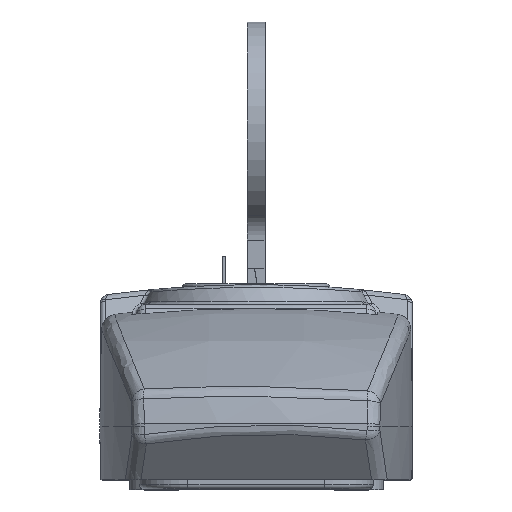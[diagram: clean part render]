
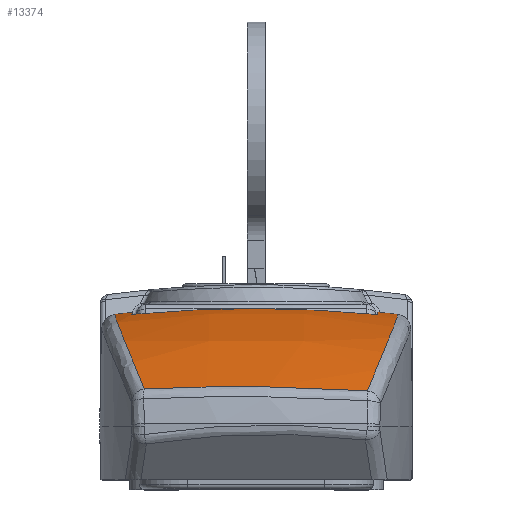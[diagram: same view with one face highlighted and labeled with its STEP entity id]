
A CAD part, top view. The second image highlights one B-rep face of the part: STEP entity #13374.
In plain terms, the highlighted free-form (B-spline) face has degree [3, 3] with [4, 4] control points.
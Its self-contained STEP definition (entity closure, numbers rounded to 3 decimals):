
#11570=CARTESIAN_POINT('',(-6.751,30.507,
-11.442));
#11583=CARTESIAN_POINT('',(-7.095,28.45,
-11.682));
#11584=CARTESIAN_POINT('',(-7.042,28.793,
-11.645));
#11585=CARTESIAN_POINT('',(-6.932,29.48,
-11.568));
#11586=CARTESIAN_POINT('',(-6.813,30.165,
-11.485));
#11587=CARTESIAN_POINT('',(-6.751,30.507,
-11.442));
#11608=CARTESIAN_POINT('',(-6.751,1.493,
-11.442));
#11618=CARTESIAN_POINT('',(-6.751,1.493,
-11.442));
#11619=CARTESIAN_POINT('',(-6.804,1.785,
-11.478));
#11620=CARTESIAN_POINT('',(-6.906,2.37,
-11.55));
#11621=CARTESIAN_POINT('',(-7.002,2.956,
-11.617));
#11622=CARTESIAN_POINT('',(-7.048,3.25,
-11.649));
#11823=CARTESIAN_POINT('',(-42.421,27.41,
-3.635));
#11824=CARTESIAN_POINT('',(-42.554,25.885,
-3.731));
#11825=CARTESIAN_POINT('',(-42.757,22.832,
-3.888));
#11826=CARTESIAN_POINT('',(-42.871,18.243,
-4.025));
#11827=CARTESIAN_POINT('',(-42.792,13.655,
-4.063));
#11828=CARTESIAN_POINT('',(-42.521,9.074,
-4.003));
#11829=CARTESIAN_POINT('',(-42.213,6.031,
-3.897));
#11830=CARTESIAN_POINT('',(-42.027,4.513,
-3.827));
#11832=CARTESIAN_POINT('',(-10.54,1.493,
-11.438));
#11833=CARTESIAN_POINT('',(-12.345,1.492,
-11.39));
#11834=CARTESIAN_POINT('',(-15.954,1.55,
-11.169));
#11835=CARTESIAN_POINT('',(-21.34,1.813,
-10.461));
#11836=CARTESIAN_POINT('',(-26.666,2.248,
-9.378));
#11837=CARTESIAN_POINT('',(-31.916,2.848,
-7.918));
#11838=CARTESIAN_POINT('',(-37.054,3.601,
-6.087));
#11839=CARTESIAN_POINT('',(-40.388,4.195,
-4.621));
#11840=CARTESIAN_POINT('',(-42.027,4.513,
-3.827));
#11842=CARTESIAN_POINT('',(-8.579,1.493,
62.41));
#11843=DIRECTION('',(0.,1.,0.));
#11844=DIRECTION('',(0.025,0.,-1.));
#11845=AXIS2_PLACEMENT_3D('',#11842,#11843,#11844);
#11847=CARTESIAN_POINT('',(-8.579,3.25,
62.41));
#11848=DIRECTION('',(0.,1.,0.));
#11849=DIRECTION('',(0.021,0.,-1.));
#11850=AXIS2_PLACEMENT_3D('',#11847,#11848,#11849);
#11852=CARTESIAN_POINT('',(-15.27,16.,-12.044));
#11853=CARTESIAN_POINT('',(-15.237,14.576,
-12.047));
#11854=CARTESIAN_POINT('',(-15.111,11.73,
-12.008));
#11855=CARTESIAN_POINT('',(-14.74,7.469,
-11.811));
#11856=CARTESIAN_POINT('',(-14.372,4.652,
-11.589));
#11857=CARTESIAN_POINT('',(-14.159,3.25,
-11.455));
#11859=CARTESIAN_POINT('',(-14.781,28.45,
-11.437));
#11860=CARTESIAN_POINT('',(-14.921,27.074,
-11.569));
#11861=CARTESIAN_POINT('',(-15.144,24.315,
-11.79));
#11862=CARTESIAN_POINT('',(-15.308,20.159,
-11.993));
#11863=CARTESIAN_POINT('',(-15.302,17.386,
-12.042));
#11864=CARTESIAN_POINT('',(-15.27,16.,-12.044));
#11866=CARTESIAN_POINT('',(-8.579,28.45,
62.41));
#11867=DIRECTION('',(0.,1.,0.));
#11868=DIRECTION('',(0.02,0.,-1.));
#11869=AXIS2_PLACEMENT_3D('',#11866,#11867,#11868);
#11871=CARTESIAN_POINT('',(-8.579,30.507,
62.41));
#11872=DIRECTION('',(0.,-1.,0.));
#11873=DIRECTION('',(-0.027,0.,-1.));
#11874=AXIS2_PLACEMENT_3D('',#11871,#11872,#11873);
#11876=CARTESIAN_POINT('',(-42.421,27.41,
-3.635));
#11877=CARTESIAN_POINT('',(-40.763,27.736,
-4.45));
#11878=CARTESIAN_POINT('',(-37.392,28.344,
-5.954));
#11879=CARTESIAN_POINT('',(-32.193,29.116,
-7.832));
#11880=CARTESIAN_POINT('',(-26.879,29.732,
-9.328));
#11881=CARTESIAN_POINT('',(-21.488,30.178,
-10.438));
#11882=CARTESIAN_POINT('',(-16.028,30.449,
-11.164));
#11883=CARTESIAN_POINT('',(-12.37,30.508,
-11.39));
#11884=CARTESIAN_POINT('',(-10.54,30.507,
-11.438));
#12479=CARTESIAN_POINT('',(-7.095,28.45,
-11.682));
#12480=VERTEX_POINT('',#12479);
#12481=CARTESIAN_POINT('',(-7.048,3.25,
-11.649));
#12482=VERTEX_POINT('',#12481);
#12483=CARTESIAN_POINT('',(-14.781,28.45,
-11.437));
#12484=VERTEX_POINT('',#12483);
#12485=VERTEX_POINT('',#11864);
#12486=VERTEX_POINT('',#11857);
#12513=VERTEX_POINT('',#11823);
#12514=VERTEX_POINT('',#11830);
#12541=VERTEX_POINT('',#11570);
#12544=CARTESIAN_POINT('',(-10.54,30.507,
-11.438));
#12545=VERTEX_POINT('',#12544);
#12549=VERTEX_POINT('',#11608);
#12550=CARTESIAN_POINT('',(-10.54,1.493,
-11.438));
#12551=VERTEX_POINT('',#12550);
#13340=CARTESIAN_POINT('',(-6.014,0.915,
-11.348));
#13341=CARTESIAN_POINT('',(-5.97,10.945,
-12.618));
#13342=CARTESIAN_POINT('',(-5.97,21.055,
-12.618));
#13343=CARTESIAN_POINT('',(-6.014,31.085,
-11.348));
#13344=CARTESIAN_POINT('',(-18.971,0.915,
-11.799));
#13345=CARTESIAN_POINT('',(-19.15,10.945,
-13.076));
#13346=CARTESIAN_POINT('',(-19.15,21.055,
-13.076));
#13347=CARTESIAN_POINT('',(-18.971,31.085,
-11.799));
#13348=CARTESIAN_POINT('',(-31.608,0.915,
-8.896));
#13349=CARTESIAN_POINT('',(-32.004,10.945,
-10.124));
#13350=CARTESIAN_POINT('',(-32.004,21.055,
-10.124));
#13351=CARTESIAN_POINT('',(-31.608,31.085,
-8.896));
#13352=CARTESIAN_POINT('',(-43.07,0.915,
-2.837));
#13353=CARTESIAN_POINT('',(-43.664,10.945,
-3.961));
#13354=CARTESIAN_POINT('',(-43.664,21.055,
-3.961));
#13355=CARTESIAN_POINT('',(-43.07,31.085,
-2.837));
#13356=(BOUNDED_SURFACE()B_SPLINE_SURFACE(3,3,((#13340,#13341,#13342,#13343),(
#13344,#13345,#13346,#13347),(#13348,#13349,#13350,#13351),(#13352,#13353,
#13354,#13355)),.UNSPECIFIED.,.F.,.F.,.F.)B_SPLINE_SURFACE_WITH_KNOTS((4,4),(4,
4),(0.,1.),(0.,1.),.UNSPECIFIED.)GEOMETRIC_REPRESENTATION_ITEM()RATIONAL_B_SPLINE_SURFACE(((1.021,1.016,1.016,
1.021),(0.998,0.993,0.993,
0.998),(0.998,0.993,0.993,
0.998),(1.021,1.016,1.016,
1.021)))REPRESENTATION_ITEM('')SURFACE());
#13358=ORIENTED_EDGE('',*,*,#13357,.T.);
#13359=ORIENTED_EDGE('',*,*,#12959,.F.);
#13360=ORIENTED_EDGE('',*,*,#13000,.F.);
#13361=ORIENTED_EDGE('',*,*,#13034,.T.);
#13362=ORIENTED_EDGE('',*,*,#13269,.T.);
#13364=ORIENTED_EDGE('',*,*,#13363,.F.);
#13366=ORIENTED_EDGE('',*,*,#13365,.F.);
#13367=ORIENTED_EDGE('',*,*,#13316,.F.);
#13368=ORIENTED_EDGE('',*,*,#13014,.T.);
#13369=ORIENTED_EDGE('',*,*,#13065,.F.);
#13371=ORIENTED_EDGE('',*,*,#13370,.F.);
#13372=EDGE_LOOP('',(#13358,#13359,#13360,#13361,#13362,#13364,#13366,#13367,
#13368,#13369,#13371));
#13373=FACE_OUTER_BOUND('',#13372,.F.);
#13374=ADVANCED_FACE('',(#13373),#13356,.T.);
#11588=B_SPLINE_CURVE_WITH_KNOTS('',3,(#11583,#11584,#11585,#11586,#11587),
.UNSPECIFIED.,.F.,.F.,(4,1,4),(0.,0.5,1.),.UNSPECIFIED.);
#11623=B_SPLINE_CURVE_WITH_KNOTS('',3,(#11618,#11619,#11620,#11621,#11622),
.UNSPECIFIED.,.F.,.F.,(4,1,4),(0.,0.5,1.),.UNSPECIFIED.);
#11831=B_SPLINE_CURVE_WITH_KNOTS('',3,(#11823,#11824,#11825,#11826,#11827,
#11828,#11829,#11830),.UNSPECIFIED.,.F.,.F.,(4,1,1,1,1,4),(0.,0.2,0.4,
0.6,0.8,1.),.UNSPECIFIED.);
#11841=B_SPLINE_CURVE_WITH_KNOTS('',3,(#11832,#11833,#11834,#11835,#11836,
#11837,#11838,#11839,#11840),.UNSPECIFIED.,.F.,.F.,(4,1,1,1,1,1,4),(0.,
0.167,0.333,0.5,0.667,0.833,
1.),.UNSPECIFIED.);
#11846=CIRCLE('',#11845,73.874);
#11851=CIRCLE('',#11850,74.075);
#11858=B_SPLINE_CURVE_WITH_KNOTS('',3,(#11852,#11853,#11854,#11855,#11856,
#11857),.UNSPECIFIED.,.F.,.F.,(4,1,1,4),(0.,0.333,
0.667,1.),.UNSPECIFIED.);
#11865=B_SPLINE_CURVE_WITH_KNOTS('',3,(#11859,#11860,#11861,#11862,#11863,
#11864),.UNSPECIFIED.,.F.,.F.,(4,1,1,4),(0.,0.333,
0.667,1.),.UNSPECIFIED.);
#11870=CIRCLE('',#11869,74.107);
#11875=CIRCLE('',#11874,73.874);
#11885=B_SPLINE_CURVE_WITH_KNOTS('',3,(#11876,#11877,#11878,#11879,#11880,
#11881,#11882,#11883,#11884),.UNSPECIFIED.,.F.,.F.,(4,1,1,1,1,1,4),(0.,
0.167,0.333,0.5,0.667,0.833,
1.),.UNSPECIFIED.);
#12959=EDGE_CURVE('',#12551,#12514,#11841,.T.);
#13000=EDGE_CURVE('',#12549,#12551,#11846,.T.);
#13014=EDGE_CURVE('',#12480,#12541,#11588,.T.);
#13034=EDGE_CURVE('',#12549,#12482,#11623,.T.);
#13065=EDGE_CURVE('',#12545,#12541,#11875,.T.);
#13269=EDGE_CURVE('',#12482,#12486,#11851,.T.);
#13316=EDGE_CURVE('',#12480,#12484,#11870,.T.);
#13357=EDGE_CURVE('',#12513,#12514,#11831,.T.);
#13363=EDGE_CURVE('',#12485,#12486,#11858,.T.);
#13365=EDGE_CURVE('',#12484,#12485,#11865,.T.);
#13370=EDGE_CURVE('',#12513,#12545,#11885,.T.);
